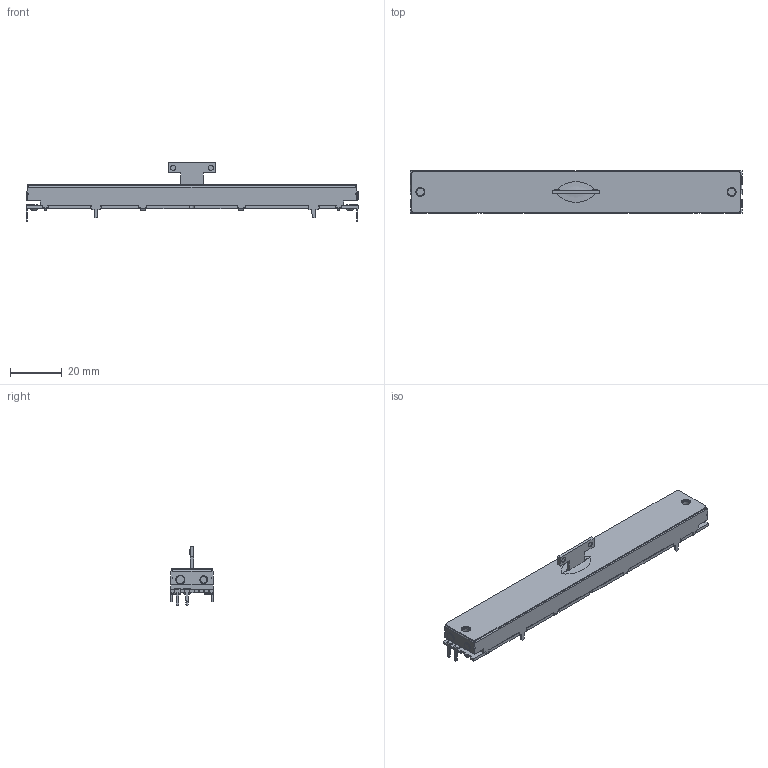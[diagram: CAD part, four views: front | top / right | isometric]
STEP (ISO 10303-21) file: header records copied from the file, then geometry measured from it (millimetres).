
FILE_DESCRIPTION(('FreeCAD Model'),'2;1');
FILE_NAME('Open CASCADE Shape Model','2025-07-01T23:25:46',(''),(''), 'Open CASCADE STEP processor 7.8','FreeCAD','Unknown');
FILE_SCHEMA(('AUTOMOTIVE_DESIGN { 1 0 10303 214 1 1 1 1 }'));
Length unit declared in the file: millimetre
Products named in the file (1): LSVA-110XD
Bounding box: 128 x 16.5 x 22.7 mm (x, y, z)
Volume: 18580.8 mm3; surface area: 8943.3 mm2
Topology: 1 solids, 2 shells, 526 faces, 1462 edges, 960 vertices
Faces by surface type: plane 365, cylinder 134, bspline 8, extrusion 8, cone 7, revolution 4
Full cylindrical faces by diameter (mm): 0.5 x3, 1.5 x5, 2 x4, 3 x4, 3.5 x4, 4 x2
Entity records: 21943 total; most frequent: CARTESIAN_POINT 5001, ORIENTED_EDGE 2924, DIRECTION 2731, EDGE_CURVE 1462, VECTOR 1097, LINE 1089, VERTEX_POINT 958, AXIS2_PLACEMENT_3D 815
